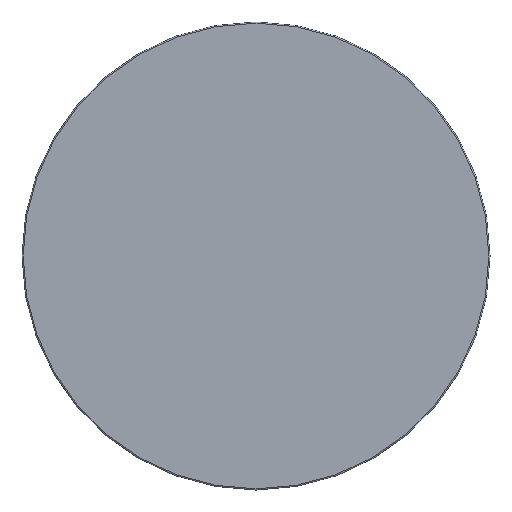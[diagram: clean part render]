
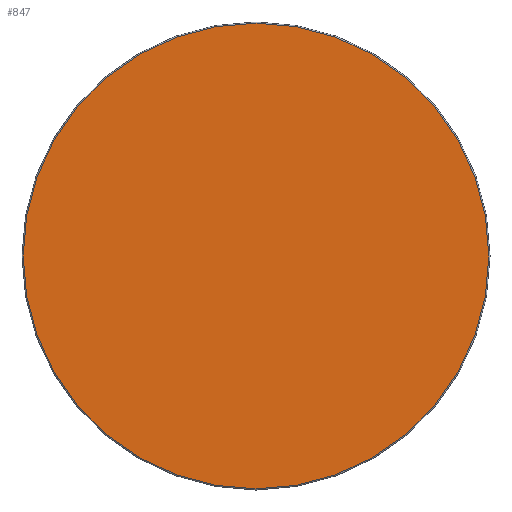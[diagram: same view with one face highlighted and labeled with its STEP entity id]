
A CAD part, left-side view. The second image highlights one B-rep face of the part: STEP entity #847.
In plain terms, the highlighted planar face has unit normal (-1, 0, 0).
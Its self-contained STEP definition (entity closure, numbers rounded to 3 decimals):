
#824=CARTESIAN_POINT('',(0.0,199.0,0.0));
#825=VERTEX_POINT('',#824);
#826=CARTESIAN_POINT('',(0.0,0.0,0.0));
#827=DIRECTION('',(1.0,0.0,0.0));
#828=DIRECTION('',(0.0,-1.0,0.0));
#829=AXIS2_PLACEMENT_3D('',#826,#827,#828);
#830=CIRCLE('',#829,199.0);
#831=EDGE_CURVE('',#825,#825,#830,.T.);
#839=CARTESIAN_POINT('',(0.0,154.5,0.));
#840=DIRECTION('',(-1.0,0.0,0.0));
#841=DIRECTION('',(0.0,0.0,1.0));
#842=AXIS2_PLACEMENT_3D('',#839,#840,#841);
#843=PLANE('',#842);
#844=ORIENTED_EDGE('',*,*,#831,.F.);
#845=EDGE_LOOP('',(#844));
#846=FACE_OUTER_BOUND('',#845,.T.);
#847=ADVANCED_FACE('',(#846),#843,.T.);
